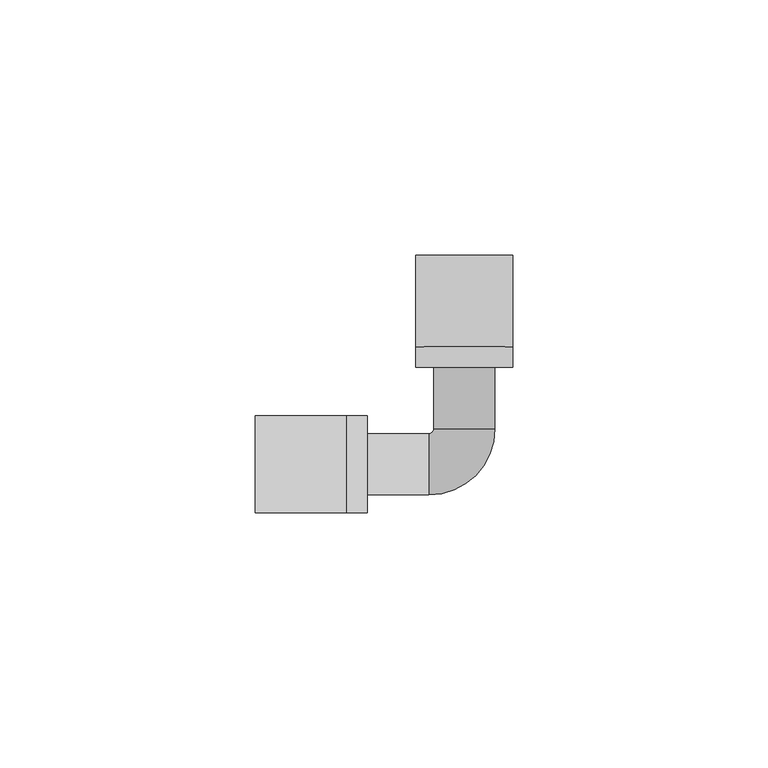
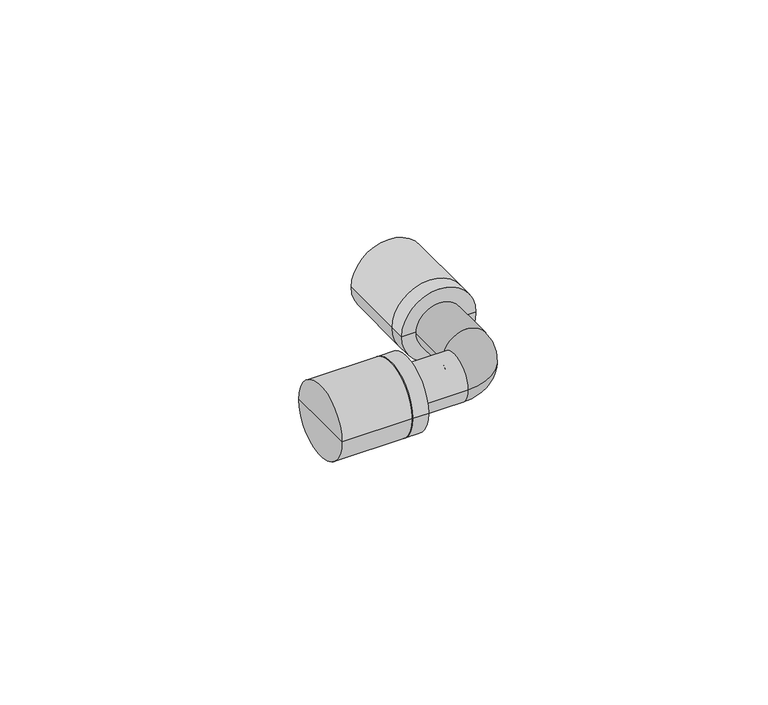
"""IFC4 building model written with IfcOpenShell, lengths in millimetres: pipe fitting geometry, KAN-therm Push kolano PPSU : KAN-therm Push kolano PPSU."""

from ifc_helpers import new_model, si_unit, point, frame, origin, place, context, project, spatial, circle_curve, ellipse_curve, trimmed, source, transform, mapped, element, save
from ifc_brep_helpers import plane_surface, cylinder_surface, revolved_surface, advanced_brep


def pipe_fitting_357c0489(model_context):
    return source(origin(), model_context, "Body", "AdvancedBrep", [
        advanced_brep(
        [(-23.0, 9.5, 0.0), (-23.0, -9.5, 0.0), (-23.0, 0.0, 0.0), (-19.0, 9.5, 0.0), (-19.0, -9.5, 0.0), (-19.0, 0.0, 0.0)],
        [
            (0, 1, circle_curve(frame((-23.0, 0.0, 0.0), z_axis=(-1.0, 0.0, 0.0), x_axis=(0.0, -1.0, 0.0)), 9.5)),
            (1, 2),
            (2, 0),
            (1, 0, circle_curve(frame((-23.0, 0.0, 0.0), z_axis=(-1.0, 0.0, 0.0), x_axis=(0.0, -1.0, 0.0)), 9.5)),
            (3, 4, circle_curve(frame((-19.0, 0.0, 0.0), z_axis=(-1.0, 0.0, 0.0), x_axis=(0.0, -1.0, 0.0)), 9.5)),
            (4, 1),
            (0, 3),
            (4, 3, circle_curve(frame((-19.0, 0.0, 0.0), z_axis=(-1.0, 0.0, 0.0), x_axis=(0.0, -1.0, 0.0)), 9.5)),
            (5, 4),
            (3, 5),
        ],
        [
            plane_surface(frame((-23.0, 0.0, 0.0), z_axis=(-1.0, 0.0, 0.0), x_axis=(0.0, -1.0, 0.0))),
            cylinder_surface(frame((-2018.0, 0.0, 0.0), z_axis=(1.0, 0.0, 0.0), x_axis=(0.0, -1.0, 0.0)), 9.5),
            plane_surface(frame((-19.0, 0.0, 0.0), z_axis=(1.0, 0.0, 0.0), x_axis=(0.0, -1.0, 0.0))),
        ],
        [
            (0, [[1, 2, 3]]),
            (0, [[4, -3, -2]]),
            (1, [[5, 6, -1, 7]]),
            (1, [[8, -7, -4, -6]]),
            (2, [[9, -5, 10]]),
            (2, [[-10, -8, -9]]),
        ],
    ),
        advanced_brep(
        [(-41.0, 9.5, 0.0), (-41.0, -9.5, 0.0), (-41.0, 0.0, 0.0), (-23.0, 9.5, 0.0), (-23.0, -9.5, 0.0), (-23.0, 0.0, 0.0)],
        [
            (0, 1, circle_curve(frame((-41.0, 0.0, 0.0), z_axis=(-1.0, 0.0, 0.0), x_axis=(0.0, -1.0, 0.0)), 9.5)),
            (1, 2),
            (2, 0),
            (1, 0, circle_curve(frame((-41.0, 0.0, 0.0), z_axis=(-1.0, 0.0, 0.0), x_axis=(0.0, -1.0, 0.0)), 9.5)),
            (3, 4, circle_curve(frame((-23.0, 0.0, 0.0), z_axis=(-1.0, 0.0, 0.0), x_axis=(0.0, -1.0, 0.0)), 9.5)),
            (4, 1),
            (0, 3),
            (4, 3, circle_curve(frame((-23.0, 0.0, 0.0), z_axis=(-1.0, 0.0, 0.0), x_axis=(0.0, -1.0, 0.0)), 9.5)),
            (5, 4),
            (3, 5),
        ],
        [
            plane_surface(frame((-41.0, 0.0, 0.0), z_axis=(-1.0, 0.0, 0.0), x_axis=(0.0, -1.0, 0.0))),
            cylinder_surface(frame((-2018.0, 0.0, 0.0), z_axis=(1.0, 0.0, 0.0), x_axis=(0.0, -1.0, 0.0)), 9.5),
            plane_surface(frame((-23.0, 0.0, 0.0), z_axis=(1.0, 0.0, 0.0), x_axis=(0.0, -1.0, 0.0))),
        ],
        [
            (0, [[1, 2, 3]]),
            (0, [[4, -3, -2]]),
            (1, [[5, 6, -1, 7]]),
            (1, [[8, -7, -4, -6]]),
            (2, [[9, -5, 10]]),
            (2, [[-10, -8, -9]]),
        ],
    ),
        advanced_brep(
        [(9.5, 23.0, 0.0), (-9.5, 23.0, 0.0), (0.0, 23.0, 0.0), (9.5, 19.0, 0.0), (-9.5, 19.0, 0.0), (0.0, 19.0, 0.0)],
        [
            (0, 1, circle_curve(frame((0.0, 23.0, 0.0), z_axis=(0.0, 1.0, 0.0), x_axis=(-1.0, 0.0, 0.0)), 9.5)),
            (1, 2),
            (2, 0),
            (1, 0, circle_curve(frame((0.0, 23.0, 0.0), z_axis=(0.0, 1.0, 0.0), x_axis=(-1.0, 0.0, 0.0)), 9.5)),
            (3, 4, circle_curve(frame((0.0, 19.0, 0.0), z_axis=(0.0, 1.0, 0.0), x_axis=(-1.0, 0.0, 0.0)), 9.5)),
            (4, 1),
            (0, 3),
            (4, 3, circle_curve(frame((0.0, 19.0, 0.0), z_axis=(0.0, 1.0, 0.0), x_axis=(-1.0, 0.0, 0.0)), 9.5)),
            (5, 4),
            (3, 5),
        ],
        [
            plane_surface(frame((0.0, 23.0, 0.0), z_axis=(0.0, 1.0, 0.0), x_axis=(-1.0, 0.0, 0.0))),
            cylinder_surface(frame((0.0, 2018.0, 0.0), z_axis=(0.0, -1.0, 0.0), x_axis=(-1.0, 0.0, 0.0)), 9.5),
            plane_surface(frame((0.0, 19.0, 0.0), z_axis=(0.0, -1.0, 0.0), x_axis=(-1.0, 0.0, 0.0))),
        ],
        [
            (0, [[1, 2, 3]]),
            (0, [[4, -3, -2]]),
            (1, [[5, 6, -1, 7]]),
            (1, [[8, -7, -4, -6]]),
            (2, [[9, -5, 10]]),
            (2, [[-10, -8, -9]]),
        ],
    ),
        advanced_brep(
        [(9.5, 41.0, 0.0), (-9.5, 41.0, 0.0), (0.0, 41.0, 0.0), (9.5, 23.0, 0.0), (-9.5, 23.0, 0.0), (0.0, 23.0, 0.0)],
        [
            (0, 1, circle_curve(frame((0.0, 41.0, 0.0), z_axis=(0.0, 1.0, 0.0), x_axis=(-1.0, 0.0, 0.0)), 9.5)),
            (1, 2),
            (2, 0),
            (1, 0, circle_curve(frame((0.0, 41.0, 0.0), z_axis=(0.0, 1.0, 0.0), x_axis=(-1.0, 0.0, 0.0)), 9.5)),
            (3, 4, circle_curve(frame((0.0, 23.0, 0.0), z_axis=(0.0, 1.0, 0.0), x_axis=(-1.0, 0.0, 0.0)), 9.5)),
            (4, 1),
            (0, 3),
            (4, 3, circle_curve(frame((0.0, 23.0, 0.0), z_axis=(0.0, 1.0, 0.0), x_axis=(-1.0, 0.0, 0.0)), 9.5)),
            (5, 4),
            (3, 5),
        ],
        [
            plane_surface(frame((0.0, 41.0, 0.0), z_axis=(0.0, 1.0, 0.0), x_axis=(-1.0, 0.0, 0.0))),
            cylinder_surface(frame((0.0, 2018.0, 0.0), z_axis=(0.0, -1.0, 0.0), x_axis=(-1.0, 0.0, 0.0)), 9.5),
            plane_surface(frame((0.0, 23.0, 0.0), z_axis=(0.0, -1.0, 0.0), x_axis=(-1.0, 0.0, 0.0))),
        ],
        [
            (0, [[1, 2, 3]]),
            (0, [[4, -3, -2]]),
            (1, [[5, 6, -1, 7]]),
            (1, [[8, -7, -4, -6]]),
            (2, [[9, -5, 10]]),
            (2, [[-10, -8, -9]]),
        ],
    ),
        advanced_brep(
        [(-6.0, 23.0, 0.0), (6.0, 23.0, 0.0), (-23.0, 6.0, 0.0), (-23.0, -6.0, 0.0), (-7.0, -6.0, 0.0), (-7.0, 6.0, 0.0), (-6.0, 7.0, 0.0), (6.0, 7.0, 0.0)],
        [
            (0, 1, circle_curve(frame((0.0, 23.0, 0.0), z_axis=(0.0, 1.0, 0.0), x_axis=(1.0, 0.0, 0.0)), 6.0)),
            (1, 0, circle_curve(frame((0.0, 23.0, 0.0), z_axis=(0.0, 1.0, 0.0), x_axis=(1.0, 0.0, 0.0)), 6.0)),
            (2, 3, circle_curve(frame((-23.0, 0.0, 0.0), z_axis=(-1.0, 0.0, 0.0), x_axis=(0.0, -1.0, 0.0)), 6.0)),
            (3, 2, circle_curve(frame((-23.0, 0.0, 0.0), z_axis=(-1.0, 0.0, 0.0), x_axis=(0.0, -1.0, 0.0)), 6.0)),
            (4, 5, circle_curve(frame((-7.0, 0.0, 0.0), z_axis=(-1.0, 0.0, 0.0), x_axis=(0.0, -1.0, 0.0)), 6.0)),
            (5, 2),
            (3, 4),
            (5, 4, circle_curve(frame((-7.0, 0.0, 0.0), z_axis=(-1.0, 0.0, 0.0), x_axis=(0.0, -1.0, 0.0)), 6.0)),
            (0, 6),
            (6, 7, circle_curve(frame((0.0, 7.0, 0.0), z_axis=(0.0, 1.0, 0.0), x_axis=(1.0, 0.0, 0.0)), 6.0)),
            (7, 1),
            (7, 6, circle_curve(frame((0.0, 7.0, 0.0), z_axis=(0.0, 1.0, 0.0), x_axis=(1.0, 0.0, 0.0)), 6.0)),
            (4, 7, circle_curve(frame((-7.0, 7.0, 0.0), z_axis=(0.0, 0.0, 1.0), x_axis=(1.0, 0.0, 0.0)), 13.0)),
            (6, 5, circle_curve(frame((-7.0, 7.0, 0.0), z_axis=(0.0, 0.0, -1.0), x_axis=(1.0, 0.0, 0.0)), 1.0)),
        ],
        [
            plane_surface(frame((0.0, 23.0, 0.0), z_axis=(0.0, 1.0, 0.0), x_axis=(0.0, 0.0, 1.0))),
            plane_surface(frame((-23.0, 0.0, 0.0), z_axis=(-1.0, 0.0, 0.0), x_axis=(0.0, 0.0, 1.0))),
            cylinder_surface(frame((-7.0, 0.0, 0.0), z_axis=(1.0, 0.0, 0.0), x_axis=(0.0, -1.0, 0.0)), 6.0),
            cylinder_surface(frame((0.0, 23.0, 0.0), z_axis=(0.0, 1.0, 0.0), x_axis=(1.0, 0.0, 0.0)), 6.0),
            revolved_surface(trimmed(ellipse_curve(frame((0.0, 7.0, 0.0), z_axis=(0.0, 1.0, 0.0), x_axis=(1.0, 0.0, 0.0)), 6.0, 6.0), [point((-6.0, 7.0, 0.0))], [point((6.0, 7.0, 0.0))], True, "CARTESIAN"), (-7.0, 7.0, 0.0), (0.0, 0.0, -1.0)),
            revolved_surface(trimmed(ellipse_curve(frame((0.0, 7.0, 0.0), z_axis=(0.0, 1.0, 0.0), x_axis=(1.0, 0.0, 0.0)), 6.0, 6.0), [point((6.0, 7.0, 0.0))], [point((-6.0, 7.0, 0.0))], True, "CARTESIAN"), (-7.0, 7.0, 0.0), (0.0, 0.0, -1.0)),
        ],
        [
            (0, [[1, 2]]),
            (1, [[3, 4]]),
            (2, [[5, 6, -4, 7]]),
            (2, [[8, -7, -3, -6]]),
            (3, [[-1, 9, 10, 11]]),
            (3, [[-2, -11, 12, -9]]),
            (4, [[13, -10, 14, -5]]),
            (5, [[-14, -12, -13, -8]]),
        ],
    ),
    ])


if __name__ == "__main__":
    model = new_model("IFC4")
    model_context = context("Model", 3, world=origin())
    ifc_project = project(units=[si_unit("LENGTHUNIT", "METRE", prefix="MILLI")], contexts=[model_context])
    site = spatial("IfcSite", under=ifc_project)
    building = spatial("IfcBuilding", under=site)
    placement = place(None, origin())
    pipe_fitting_shape = pipe_fitting_357c0489(model_context)
    element("IfcPipeFitting", 1, ObjectType="KAN-therm Push kolano PPSU : KAN-therm Push kolano PPSU", at=placement, inside=building, context=model_context, shape_type="MappedRepresentation", body=[
        mapped(pipe_fitting_shape, transform((0.0, 0.0, 0.0), x_axis=(1.0, 0.0, 0.0), y_axis=(0.0, 1.0, 0.0), z_axis=(0.0, 0.0, 1.0))),
    ])
    save(model, "model.ifc")
